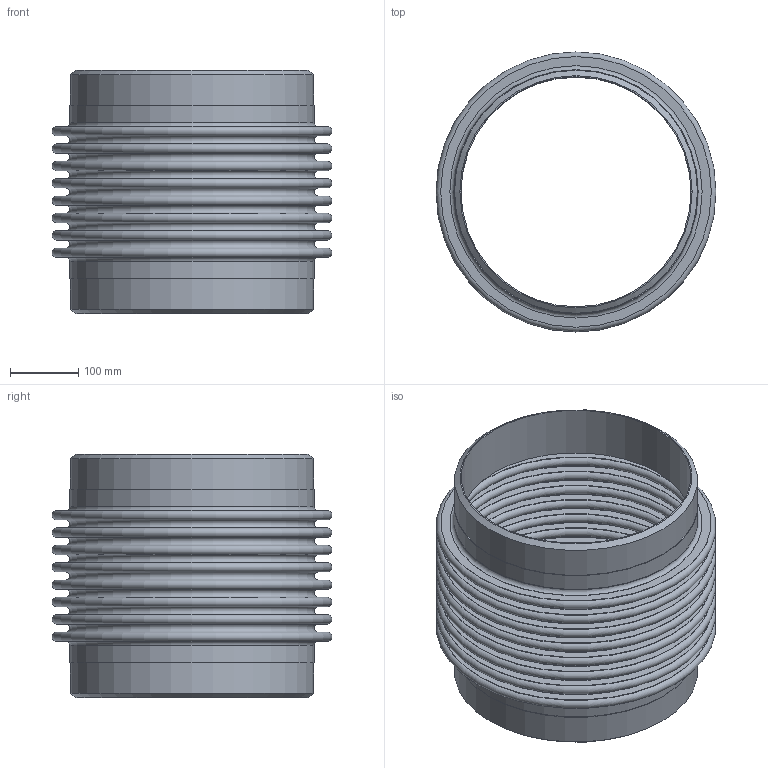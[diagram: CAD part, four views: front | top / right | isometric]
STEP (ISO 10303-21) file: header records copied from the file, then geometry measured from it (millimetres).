
FILE_DESCRIPTION(/* description */ (''),/* implementation_level */ '2;1');
FILE_NAME(/* name */ 'PIPE- 14 - 85 PSIG.stp',/* time_stamp */ '2026-07-23T09:33:01-05:00',/* author */ ('jorgef'),/* organization */ (''),/* preprocessor_version */ 'ST-DEVELOPER v20.1',/* originating_system */ 'Autodesk Inventor 2026',/* authorisation */ '');
FILE_SCHEMA (('AUTOMOTIVE_DESIGN { 1 0 10303 214 3 1 1 }'));
Length unit declared in the file: inch
Products named in the file (1): PIPE- 14 - 85 PSIG ASSEMBLY PART
Bounding box: 409.57 x 409.57 x 355.6 mm (x, y, z)
Volume: 2163015.1 mm3; surface area: 1647693.5 mm2
Topology: 1 solids, 1 shells, 80 faces, 126 edges, 84 vertices
Faces by surface type: plane 38, torus 34, cylinder 6, cone 2
Full cylindrical faces by diameter (mm): 336.55 x2, 355.6 x2, 357.429 x2
Entity records: 2035 total; most frequent: DIRECTION 406, CARTESIAN_POINT 291, ORIENTED_EDGE 252, AXIS2_PLACEMENT_3D 199, EDGE_CURVE 126, EDGE_LOOP 118, CIRCLE 118, VERTEX_POINT 84
